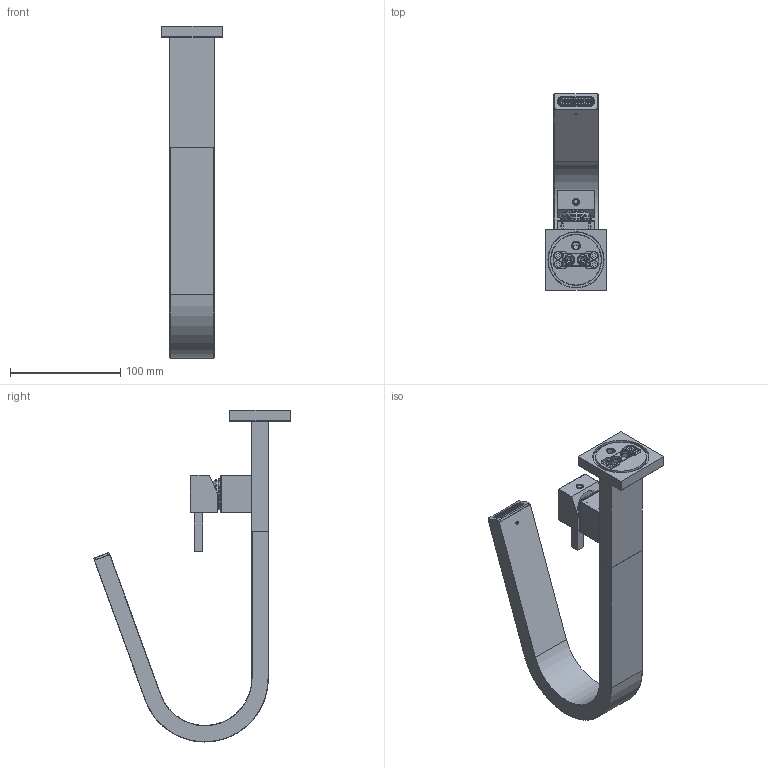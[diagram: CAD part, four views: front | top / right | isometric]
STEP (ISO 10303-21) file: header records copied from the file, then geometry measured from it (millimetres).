
FILE_DESCRIPTION (( 'STEP AP203' ), '1' );
FILE_NAME ('H4U1.STEP', '2016-10-18T13:21:46', ( '' ), ( '' ), 'SwSTEP 2.0', 'SolidWorks 2014', '' );
FILE_SCHEMA (( 'CONFIG_CONTROL_DESIGN' ));
Length unit declared in the file: millimetre
Products named in the file (33): EU0110_1; EU0101_0; GRANO M3 X 6; SUPP-ASTA-MOLLA; VITE TCEI M4x16; EU004_00; EU0116_3; SPINA ELASTICA Ø3x8; TAPPHITO01; EU0067_00; EU0103_1; 02328000002; OR7.65x1.78; 004_1; H4U1; EU0109_0; EU0040_3; 001_AF3; EU0119_2; 006_1; EU006_00; EU0117_0; OR 9 X 2; EU0104_2; EU008_01; 002_AF3; EU0120_0; EU0107_3; 007; F 25; 005_1; GRANO M5x6; EU0205_0
Assembly tree (44 placements, depth 4):
  H4U1
    EU008_01
      EU0116_3
      EU0067_00
        EU0107_3
        02328000002
        EU0040_3  x2
      GRANO M3 X 6
    EU006_00
      EU0117_0
      EU0101_0
      EU0103_1
      VITE TCEI M4x16  x8
      EU0109_0
      EU0120_0
      EU0119_2
      EU004_00
        GRANO M5x6  x2
        EU0104_2
        EU0110_1
        TAPPHITO01
      F 25
        001_AF3
        002_AF3
        SUPP-ASTA-MOLLA
        004_1
        006_1
        007
        005_1
    SPINA ELASTICA Ø3x8  x2
    GRANO M5x6
    TAPPHITO01
    EU0205_0
    OR 9 X 2
    OR7.65x1.78
Bounding box: 55 x 178.3 x 300.9 mm (x, y, z)
Volume: 215947.6 mm3; surface area: 174697.7 mm2
Topology: 40 solids, 40 shells, 3214 faces, 8521 edges, 5357 vertices
Faces by surface type: cylinder 1233, plane 1214, bspline 282, cone 270, torus 185, sphere 30
Entity records: 108420 total; most frequent: CARTESIAN_POINT 31926, ORIENTED_EDGE 15780, DIRECTION 14284, EDGE_CURVE 7890, AXIS2_PLACEMENT_3D 5193, VERTEX_POINT 5011, VECTOR 3898, LINE 3898
